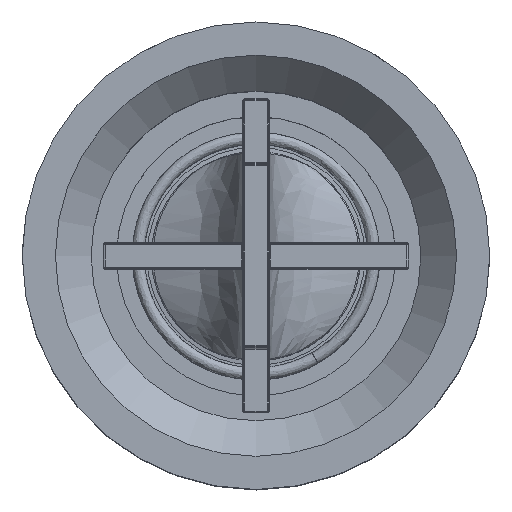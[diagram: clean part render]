
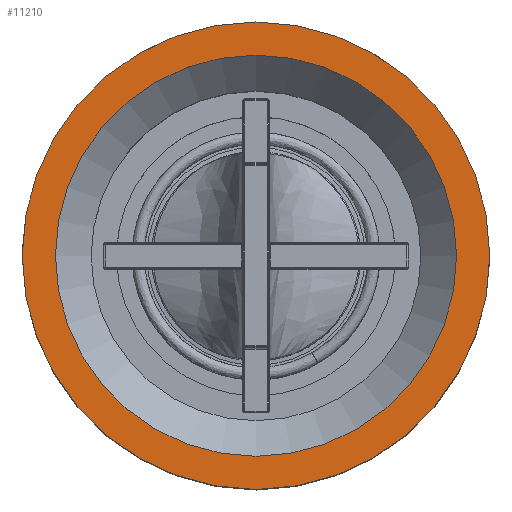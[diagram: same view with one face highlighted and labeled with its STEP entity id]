
A CAD part, top view. The second image highlights one B-rep face of the part: STEP entity #11210.
In plain terms, the highlighted planar face has unit normal (0, 0, 1).
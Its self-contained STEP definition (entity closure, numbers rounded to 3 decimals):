
#11140=CARTESIAN_POINT('',(-13.4,-0.,18.));
#11141=VERTEX_POINT('',#11140);
#11148=CARTESIAN_POINT('',(-0.,0.,18.));
#11149=DIRECTION('',(0.,0.,-1.));
#11150=DIRECTION('',(-1.,0.,-0.));
#11151=AXIS2_PLACEMENT_3D('',#11148,#11149,#11150);
#11152=CIRCLE('',#11151,13.4);
#11153=EDGE_CURVE('',#11141,#11141,#11152,.T.);
#11191=CARTESIAN_POINT('',(-0.,0.,18.));
#11192=DIRECTION('',(0.,0.,-1.));
#11193=DIRECTION('',(-1.,0.,-0.));
#11194=AXIS2_PLACEMENT_3D('',#11191,#11192,#11193);
#11195=PLANE('',#11194);
#11196=CARTESIAN_POINT('',(-11.5,-0.,18.));
#11197=VERTEX_POINT('',#11196);
#11198=CARTESIAN_POINT('',(-0.,0.,18.));
#11199=DIRECTION('',(0.,0.,-1.));
#11200=DIRECTION('',(-1.,0.,-0.));
#11201=AXIS2_PLACEMENT_3D('',#11198,#11199,#11200);
#11202=CIRCLE('',#11201,11.5);
#11203=EDGE_CURVE('',#11197,#11197,#11202,.T.);
#11204=ORIENTED_EDGE('',*,*,#11203,.T.);
#11205=EDGE_LOOP('',(#11204));
#11206=FACE_BOUND('',#11205,.T.);
#11207=ORIENTED_EDGE('',*,*,#11153,.F.);
#11208=EDGE_LOOP('',(#11207));
#11209=FACE_BOUND('',#11208,.T.);
#11210=ADVANCED_FACE('',(#11206,#11209),#11195,.F.);
